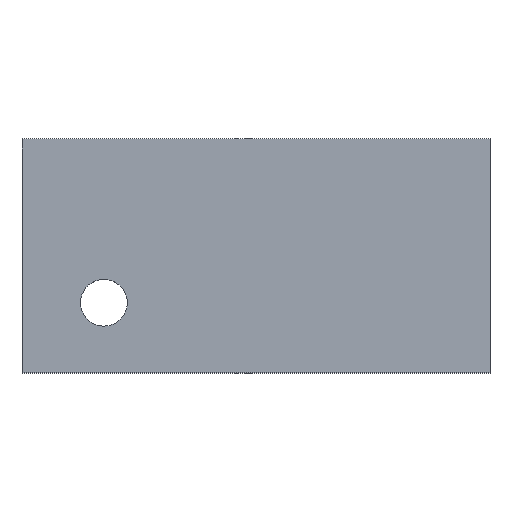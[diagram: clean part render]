
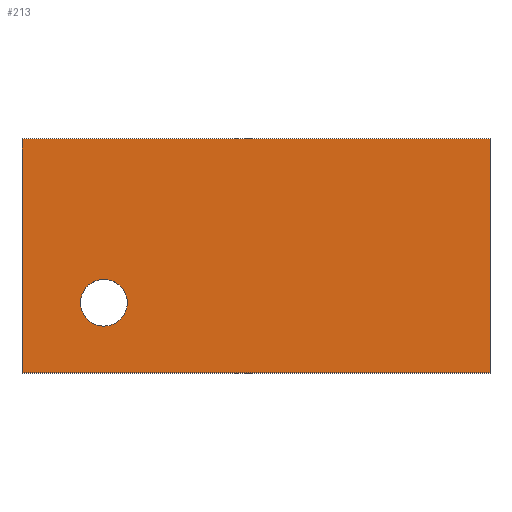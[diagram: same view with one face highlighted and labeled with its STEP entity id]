
A CAD part, top view. The second image highlights one B-rep face of the part: STEP entity #213.
In plain terms, the highlighted planar face has unit normal (0, 0, 1).
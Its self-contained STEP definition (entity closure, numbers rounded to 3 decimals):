
#24 = VERTEX_POINT('',#25);
#25 = CARTESIAN_POINT('',(0.,0.,4.));
#32 = PLANE('',#33);
#33 = AXIS2_PLACEMENT_3D('',#34,#35,#36);
#34 = CARTESIAN_POINT('',(0.,0.,0.));
#35 = DIRECTION('',(1.,0.,-0.));
#36 = DIRECTION('',(0.,0.,1.));
#44 = PLANE('',#45);
#45 = AXIS2_PLACEMENT_3D('',#46,#47,#48);
#46 = CARTESIAN_POINT('',(0.,0.,0.));
#47 = DIRECTION('',(-0.,1.,0.));
#48 = DIRECTION('',(0.,0.,1.));
#85 = VERTEX_POINT('',#86);
#86 = CARTESIAN_POINT('',(0.,20.,4.));
#100 = PLANE('',#101);
#101 = AXIS2_PLACEMENT_3D('',#102,#103,#104);
#102 = CARTESIAN_POINT('',(0.,20.,0.));
#103 = DIRECTION('',(-0.,1.,0.));
#104 = DIRECTION('',(0.,0.,1.));
#112 = EDGE_CURVE('',#24,#85,#113,.T.);
#113 = SURFACE_CURVE('',#114,(#118,#125),.PCURVE_S1.);
#114 = LINE('',#115,#116);
#115 = CARTESIAN_POINT('',(0.,0.,4.));
#116 = VECTOR('',#117,1.);
#117 = DIRECTION('',(-0.,1.,0.));
#118 = PCURVE('',#32,#119);
#119 = DEFINITIONAL_REPRESENTATION('',(#120),#124);
#120 = LINE('',#121,#122);
#121 = CARTESIAN_POINT('',(4.,0.));
#122 = VECTOR('',#123,1.);
#123 = DIRECTION('',(0.,-1.));
#124 = ( GEOMETRIC_REPRESENTATION_CONTEXT(2) 
PARAMETRIC_REPRESENTATION_CONTEXT() REPRESENTATION_CONTEXT('2D SPACE',''
  ) );
#125 = PCURVE('',#126,#131);
#126 = PLANE('',#127);
#127 = AXIS2_PLACEMENT_3D('',#128,#129,#130);
#128 = CARTESIAN_POINT('',(0.,0.,4.));
#129 = DIRECTION('',(0.,0.,1.));
#130 = DIRECTION('',(1.,0.,-0.));
#131 = DEFINITIONAL_REPRESENTATION('',(#132),#136);
#132 = LINE('',#133,#134);
#133 = CARTESIAN_POINT('',(0.,0.));
#134 = VECTOR('',#135,1.);
#135 = DIRECTION('',(0.,1.));
#136 = ( GEOMETRIC_REPRESENTATION_CONTEXT(2) 
PARAMETRIC_REPRESENTATION_CONTEXT() REPRESENTATION_CONTEXT('2D SPACE',''
  ) );
#165 = EDGE_CURVE('',#24,#166,#168,.T.);
#166 = VERTEX_POINT('',#167);
#167 = CARTESIAN_POINT('',(40.,0.,4.));
#168 = SURFACE_CURVE('',#169,(#173,#180),.PCURVE_S1.);
#169 = LINE('',#170,#171);
#170 = CARTESIAN_POINT('',(0.,0.,4.));
#171 = VECTOR('',#172,1.);
#172 = DIRECTION('',(1.,0.,-0.));
#173 = PCURVE('',#44,#174);
#174 = DEFINITIONAL_REPRESENTATION('',(#175),#179);
#175 = LINE('',#176,#177);
#176 = CARTESIAN_POINT('',(4.,0.));
#177 = VECTOR('',#178,1.);
#178 = DIRECTION('',(0.,1.));
#179 = ( GEOMETRIC_REPRESENTATION_CONTEXT(2) 
PARAMETRIC_REPRESENTATION_CONTEXT() REPRESENTATION_CONTEXT('2D SPACE',''
  ) );
#180 = PCURVE('',#126,#181);
#181 = DEFINITIONAL_REPRESENTATION('',(#182),#186);
#182 = LINE('',#183,#184);
#183 = CARTESIAN_POINT('',(0.,0.));
#184 = VECTOR('',#185,1.);
#185 = DIRECTION('',(1.,0.));
#186 = ( GEOMETRIC_REPRESENTATION_CONTEXT(2) 
PARAMETRIC_REPRESENTATION_CONTEXT() REPRESENTATION_CONTEXT('2D SPACE',''
  ) );
#202 = PLANE('',#203);
#203 = AXIS2_PLACEMENT_3D('',#204,#205,#206);
#204 = CARTESIAN_POINT('',(40.,0.,0.));
#205 = DIRECTION('',(1.,0.,-0.));
#206 = DIRECTION('',(0.,0.,1.));
#213 = ADVANCED_FACE('',(#214,#262),#126,.T.);
#214 = FACE_BOUND('',#215,.T.);
#215 = EDGE_LOOP('',(#216,#217,#218,#241));
#216 = ORIENTED_EDGE('',*,*,#112,.F.);
#217 = ORIENTED_EDGE('',*,*,#165,.T.);
#218 = ORIENTED_EDGE('',*,*,#219,.T.);
#219 = EDGE_CURVE('',#166,#220,#222,.T.);
#220 = VERTEX_POINT('',#221);
#221 = CARTESIAN_POINT('',(40.,20.,4.));
#222 = SURFACE_CURVE('',#223,(#227,#234),.PCURVE_S1.);
#223 = LINE('',#224,#225);
#224 = CARTESIAN_POINT('',(40.,0.,4.));
#225 = VECTOR('',#226,1.);
#226 = DIRECTION('',(-0.,1.,0.));
#227 = PCURVE('',#126,#228);
#228 = DEFINITIONAL_REPRESENTATION('',(#229),#233);
#229 = LINE('',#230,#231);
#230 = CARTESIAN_POINT('',(40.,0.));
#231 = VECTOR('',#232,1.);
#232 = DIRECTION('',(0.,1.));
#233 = ( GEOMETRIC_REPRESENTATION_CONTEXT(2) 
PARAMETRIC_REPRESENTATION_CONTEXT() REPRESENTATION_CONTEXT('2D SPACE',''
  ) );
#234 = PCURVE('',#202,#235);
#235 = DEFINITIONAL_REPRESENTATION('',(#236),#240);
#236 = LINE('',#237,#238);
#237 = CARTESIAN_POINT('',(4.,0.));
#238 = VECTOR('',#239,1.);
#239 = DIRECTION('',(0.,-1.));
#240 = ( GEOMETRIC_REPRESENTATION_CONTEXT(2) 
PARAMETRIC_REPRESENTATION_CONTEXT() REPRESENTATION_CONTEXT('2D SPACE',''
  ) );
#241 = ORIENTED_EDGE('',*,*,#242,.F.);
#242 = EDGE_CURVE('',#85,#220,#243,.T.);
#243 = SURFACE_CURVE('',#244,(#248,#255),.PCURVE_S1.);
#244 = LINE('',#245,#246);
#245 = CARTESIAN_POINT('',(0.,20.,4.));
#246 = VECTOR('',#247,1.);
#247 = DIRECTION('',(1.,0.,-0.));
#248 = PCURVE('',#126,#249);
#249 = DEFINITIONAL_REPRESENTATION('',(#250),#254);
#250 = LINE('',#251,#252);
#251 = CARTESIAN_POINT('',(0.,20.));
#252 = VECTOR('',#253,1.);
#253 = DIRECTION('',(1.,0.));
#254 = ( GEOMETRIC_REPRESENTATION_CONTEXT(2) 
PARAMETRIC_REPRESENTATION_CONTEXT() REPRESENTATION_CONTEXT('2D SPACE',''
  ) );
#255 = PCURVE('',#100,#256);
#256 = DEFINITIONAL_REPRESENTATION('',(#257),#261);
#257 = LINE('',#258,#259);
#258 = CARTESIAN_POINT('',(4.,0.));
#259 = VECTOR('',#260,1.);
#260 = DIRECTION('',(0.,1.));
#261 = ( GEOMETRIC_REPRESENTATION_CONTEXT(2) 
PARAMETRIC_REPRESENTATION_CONTEXT() REPRESENTATION_CONTEXT('2D SPACE',''
  ) );
#262 = FACE_BOUND('',#263,.T.);
#263 = EDGE_LOOP('',(#264));
#264 = ORIENTED_EDGE('',*,*,#265,.F.);
#265 = EDGE_CURVE('',#266,#266,#268,.T.);
#266 = VERTEX_POINT('',#267);
#267 = CARTESIAN_POINT('',(9.,6.,4.));
#268 = SURFACE_CURVE('',#269,(#274,#281),.PCURVE_S1.);
#269 = CIRCLE('',#270,2.);
#270 = AXIS2_PLACEMENT_3D('',#271,#272,#273);
#271 = CARTESIAN_POINT('',(7.,6.,4.));
#272 = DIRECTION('',(0.,0.,1.));
#273 = DIRECTION('',(1.,0.,-0.));
#274 = PCURVE('',#126,#275);
#275 = DEFINITIONAL_REPRESENTATION('',(#276),#280);
#276 = CIRCLE('',#277,2.);
#277 = AXIS2_PLACEMENT_2D('',#278,#279);
#278 = CARTESIAN_POINT('',(7.,6.));
#279 = DIRECTION('',(1.,0.));
#280 = ( GEOMETRIC_REPRESENTATION_CONTEXT(2) 
PARAMETRIC_REPRESENTATION_CONTEXT() REPRESENTATION_CONTEXT('2D SPACE',''
  ) );
#281 = PCURVE('',#282,#287);
#282 = CYLINDRICAL_SURFACE('',#283,2.);
#283 = AXIS2_PLACEMENT_3D('',#284,#285,#286);
#284 = CARTESIAN_POINT('',(7.,6.,-1.));
#285 = DIRECTION('',(0.,0.,1.));
#286 = DIRECTION('',(1.,0.,-0.));
#287 = DEFINITIONAL_REPRESENTATION('',(#288),#292);
#288 = LINE('',#289,#290);
#289 = CARTESIAN_POINT('',(0.,5.));
#290 = VECTOR('',#291,1.);
#291 = DIRECTION('',(1.,0.));
#292 = ( GEOMETRIC_REPRESENTATION_CONTEXT(2) 
PARAMETRIC_REPRESENTATION_CONTEXT() REPRESENTATION_CONTEXT('2D SPACE',''
  ) );
